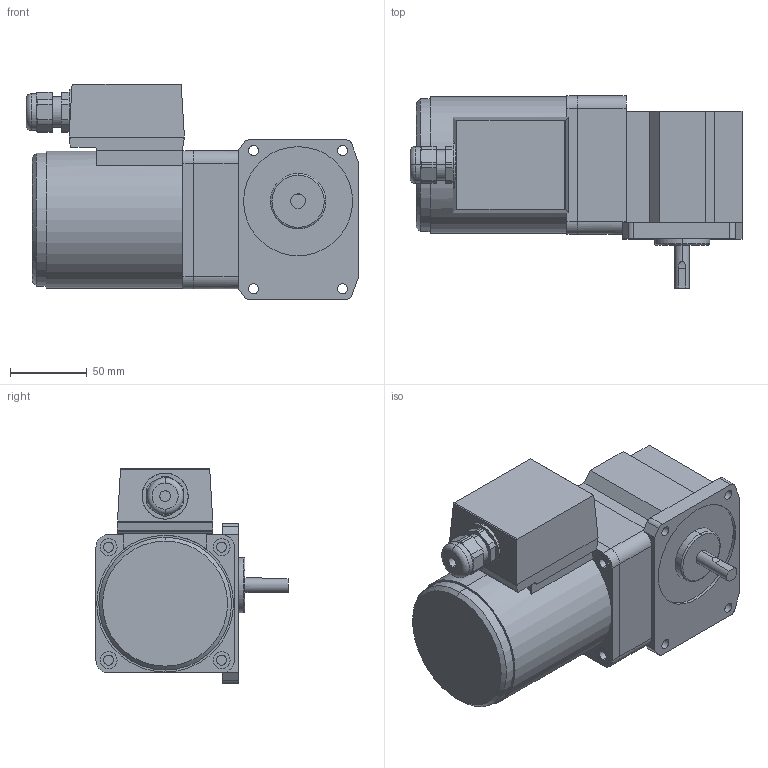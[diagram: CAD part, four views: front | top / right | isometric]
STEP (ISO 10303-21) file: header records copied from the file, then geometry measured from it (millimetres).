
FILE_DESCRIPTION(('starvars output'),'2;1');
FILE_NAME('5RK40GN-CW2TE _ 5GN12.5RAA.stp','13:46:56 2015/05/11',( 'Thomas Industrial Network Germany GmbH'),( 'Thomas Industrial Network Germany GmbH'),'unknown preprocess','ACIS' ,'unknown authorization');
FILE_SCHEMA(('AUTOMOTIVE_DESIGN_CC2 {UNKNOWN IMPLEMENTATION LEVEL}'));
Length unit declared in the file: millimetre
Products named in the file (1): PRODUCT_ID_2205
Bounding box: 216.12 x 125 x 140 mm (x, y, z)
Volume: 1624885.2 mm3; surface area: 106650.9 mm2
Topology: 1 solids, 1 shells, 194 faces, 494 edges, 324 vertices
Faces by surface type: plane 96, cylinder 84, torus 12, cone 2
Entity records: 7075 total; most frequent: CARTESIAN_POINT 1074, ORIENTED_EDGE 988, DIRECTION 804, EDGE_CURVE 494, VERTEX_POINT 324, VECTOR 288, LINE 288, AXIS2_PLACEMENT_3D 258
